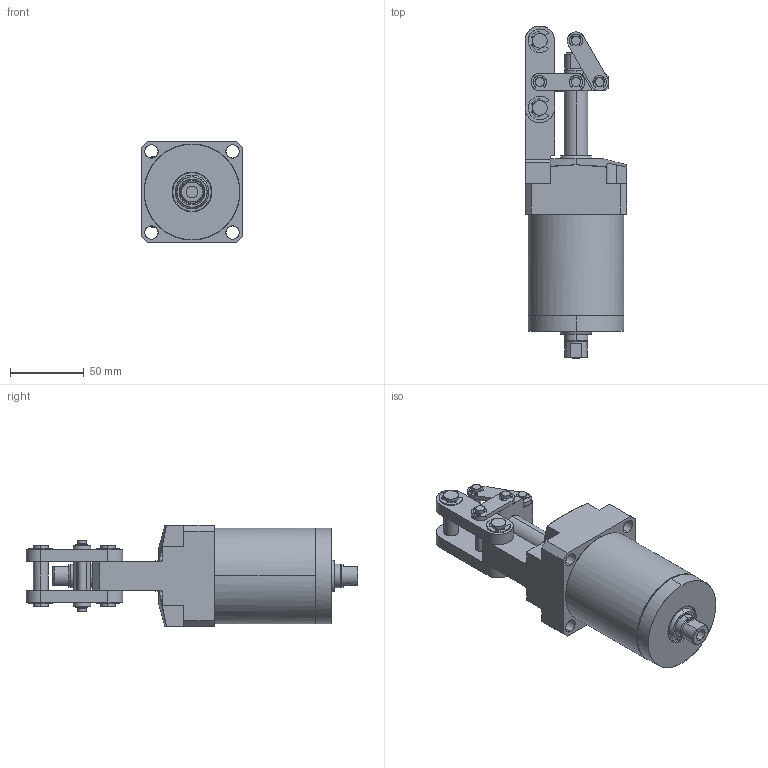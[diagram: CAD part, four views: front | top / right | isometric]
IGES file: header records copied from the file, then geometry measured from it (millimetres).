
Start section: Comment
Global section: file name: JLF5H42-44KD.igs; native system:  By Spatial Corp.; preprocessor: XPlus GENERIC/IGES 3.0; author: Author; organization: Title; date: 20080526.114515; units: millimetre
Bounding box: 69 x 224.99 x 69 mm (x, y, z)
Surface area: 91881.6 mm2 (no closed solid volume)
Topology: 0 solids, 0 shells, 565 faces, 2970 edges, 2964 vertices
Faces by surface type: bspline 565
